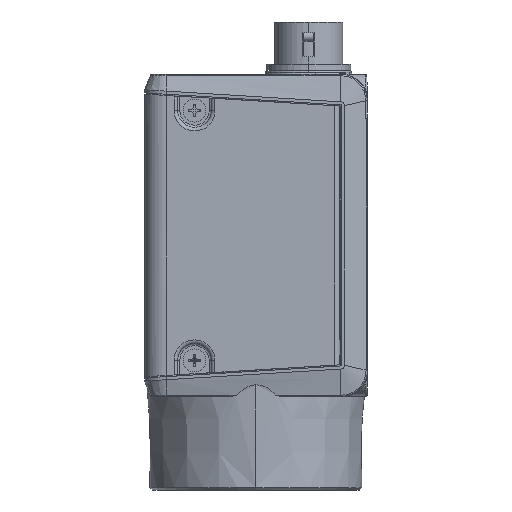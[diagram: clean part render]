
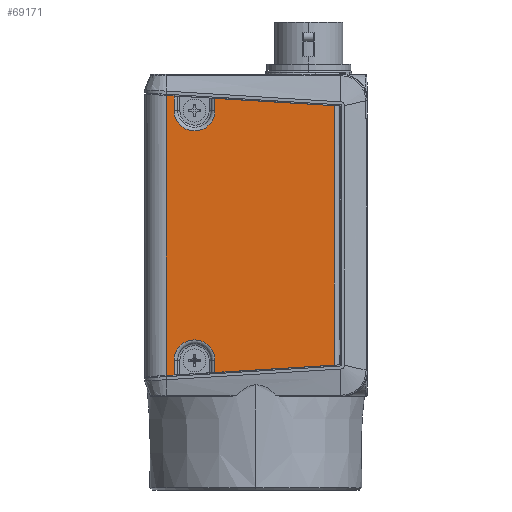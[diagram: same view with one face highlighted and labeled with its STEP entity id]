
A CAD part, left-side view. The second image highlights one B-rep face of the part: STEP entity #69171.
In plain terms, the highlighted planar face has unit normal (-1, 0, 0).
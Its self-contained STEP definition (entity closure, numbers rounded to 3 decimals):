
#13173=CARTESIAN_POINT('',(-14.5,-10.263,
13.575));
#13178=DIRECTION('',(0.,0.,1.));
#13179=VECTOR('',#13178,33.851);
#13180=CARTESIAN_POINT('',(-14.5,-10.263,
13.575));
#13181=LINE('',#13180,#13179);
#13209=CARTESIAN_POINT('',(-14.5,5.33,48.379));
#13320=DIRECTION('',(0.,0.,-1.));
#13321=VECTOR('',#13320,1.579);
#13322=CARTESIAN_POINT('',(-14.5,5.33,48.379));
#13323=LINE('',#13322,#13321);
#13327=CARTESIAN_POINT('',(-14.5,8.,14.2));
#13328=DIRECTION('',(-1.,0.,0.));
#13329=DIRECTION('',(0.,-1.,0.));
#13330=AXIS2_PLACEMENT_3D('',#13327,#13328,#13329);
#13335=CARTESIAN_POINT('',(-14.5,8.,14.2));
#13336=DIRECTION('',(-1.,0.,0.));
#13337=DIRECTION('',(0.,-0.999,0.054));
#13338=AXIS2_PLACEMENT_3D('',#13335,#13336,#13337);
#13343=DIRECTION('',(0.,0.998,-0.061));
#13344=VECTOR('',#13343,1.032);
#13345=CARTESIAN_POINT('',(-14.5,10.67,12.294));
#13346=LINE('',#13345,#13344);
#13350=DIRECTION('',(0.,-0.998,-0.061));
#13351=VECTOR('',#13350,1.032);
#13352=CARTESIAN_POINT('',(-14.5,11.7,
48.769));
#13353=LINE('',#13352,#13351);
#13357=CARTESIAN_POINT('',(-14.5,8.,46.8));
#13358=DIRECTION('',(-1.,0.,0.));
#13359=DIRECTION('',(0.,1.,0.));
#13360=AXIS2_PLACEMENT_3D('',#13357,#13358,#13359);
#13365=CARTESIAN_POINT('',(-14.5,8.,46.8));
#13366=DIRECTION('',(-1.,0.,0.));
#13367=DIRECTION('',(0.,0.999,-0.054));
#13368=AXIS2_PLACEMENT_3D('',#13365,#13366,#13367);
#13373=DIRECTION('',(0.,-0.998,-0.061));
#13374=VECTOR('',#13373,15.622);
#13375=CARTESIAN_POINT('',(-14.5,5.33,48.379));
#13376=LINE('',#13375,#13374);
#13380=DIRECTION('',(0.,0.998,-0.061));
#13381=VECTOR('',#13380,15.622);
#13382=CARTESIAN_POINT('',(-14.5,-10.263,
13.575));
#13383=LINE('',#13382,#13381);
#13387=DIRECTION('',(0.,0.,-1.));
#13388=VECTOR('',#13387,1.579);
#13389=CARTESIAN_POINT('',(-14.5,5.33,14.2));
#13390=LINE('',#13389,#13388);
#13469=CARTESIAN_POINT('',(-14.5,5.33,
12.621));
#13549=CARTESIAN_POINT('',(-14.5,10.67,48.706));
#31549=CARTESIAN_POINT('',(-14.5,11.7,
48.769));
#31554=DIRECTION('',(0.,0.,-1.));
#31555=VECTOR('',#31554,36.537);
#31556=CARTESIAN_POINT('',(-14.5,11.7,
48.769));
#31557=LINE('',#31556,#31555);
#31561=CARTESIAN_POINT('',(-14.5,11.7,
12.231));
#31608=CARTESIAN_POINT('',(-14.5,10.67,12.294));
#31836=DIRECTION('',(0.,0.,1.));
#31837=VECTOR('',#31836,1.906);
#31838=CARTESIAN_POINT('',(-14.5,10.67,12.294));
#31839=LINE('',#31838,#31837);
#37957=DIRECTION('',(0.,0.,1.));
#37958=VECTOR('',#37957,1.906);
#37959=CARTESIAN_POINT('',(-14.5,10.67,46.8));
#37960=LINE('',#37959,#37958);
#50939=VERTEX_POINT('',#31561);
#50942=VERTEX_POINT('',#31549);
#51125=VERTEX_POINT('',#13549);
#51146=VERTEX_POINT('',#13209);
#51147=CARTESIAN_POINT('',(-14.5,5.33,46.8));
#51148=VERTEX_POINT('',#51147);
#51149=CARTESIAN_POINT('',(-14.5,-10.263,
47.425));
#51150=VERTEX_POINT('',#51149);
#51157=VERTEX_POINT('',#13173);
#51176=VERTEX_POINT('',#13469);
#51213=VERTEX_POINT('',#31608);
#51214=CARTESIAN_POINT('',(-14.5,10.67,14.2));
#51215=VERTEX_POINT('',#51214);
#51216=CARTESIAN_POINT('',(-14.5,5.33,14.2));
#51217=VERTEX_POINT('',#51216);
#51218=CARTESIAN_POINT('',(-14.5,5.334,14.345));
#51219=VERTEX_POINT('',#51218);
#51220=CARTESIAN_POINT('',(-14.5,10.67,46.8));
#51221=VERTEX_POINT('',#51220);
#51222=CARTESIAN_POINT('',(-14.5,10.666,46.655));
#51223=VERTEX_POINT('',#51222);
#69139=CARTESIAN_POINT('',(-14.5,14.5,11.7));
#69140=DIRECTION('',(-1.,0.,0.));
#69141=DIRECTION('',(0.,0.,-1.));
#69142=AXIS2_PLACEMENT_3D('',#69139,#69140,#69141);
#69143=PLANE('',#69142);
#69145=ORIENTED_EDGE('',*,*,#69144,.F.);
#69147=ORIENTED_EDGE('',*,*,#69146,.T.);
#69149=ORIENTED_EDGE('',*,*,#69148,.T.);
#69151=ORIENTED_EDGE('',*,*,#69150,.F.);
#69153=ORIENTED_EDGE('',*,*,#69152,.T.);
#69155=ORIENTED_EDGE('',*,*,#69154,.F.);
#69157=ORIENTED_EDGE('',*,*,#69156,.T.);
#69159=ORIENTED_EDGE('',*,*,#69158,.F.);
#69161=ORIENTED_EDGE('',*,*,#69160,.T.);
#69163=ORIENTED_EDGE('',*,*,#69162,.T.);
#69164=ORIENTED_EDGE('',*,*,#69132,.F.);
#69165=ORIENTED_EDGE('',*,*,#68972,.T.);
#69166=ORIENTED_EDGE('',*,*,#68884,.F.);
#69168=ORIENTED_EDGE('',*,*,#69167,.T.);
#69169=EDGE_LOOP('',(#69145,#69147,#69149,#69151,#69153,#69155,#69157,#69159,
#69161,#69163,#69164,#69165,#69166,#69168));
#69170=FACE_OUTER_BOUND('',#69169,.F.);
#69171=ADVANCED_FACE('',(#69170),#69143,.T.);
#13331=CIRCLE('',#13330,2.67);
#13339=CIRCLE('',#13338,2.67);
#13361=CIRCLE('',#13360,2.67);
#13369=CIRCLE('',#13368,2.67);
#68884=EDGE_CURVE('',#51157,#51150,#13181,.T.);
#68972=EDGE_CURVE('',#51146,#51150,#13376,.T.);
#69132=EDGE_CURVE('',#51146,#51148,#13323,.T.);
#69144=EDGE_CURVE('',#51217,#51176,#13390,.T.);
#69146=EDGE_CURVE('',#51217,#51219,#13331,.T.);
#69148=EDGE_CURVE('',#51219,#51215,#13339,.T.);
#69150=EDGE_CURVE('',#51213,#51215,#31839,.T.);
#69152=EDGE_CURVE('',#51213,#50939,#13346,.T.);
#69154=EDGE_CURVE('',#50942,#50939,#31557,.T.);
#69156=EDGE_CURVE('',#50942,#51125,#13353,.T.);
#69158=EDGE_CURVE('',#51221,#51125,#37960,.T.);
#69160=EDGE_CURVE('',#51221,#51223,#13361,.T.);
#69162=EDGE_CURVE('',#51223,#51148,#13369,.T.);
#69167=EDGE_CURVE('',#51157,#51176,#13383,.T.);
